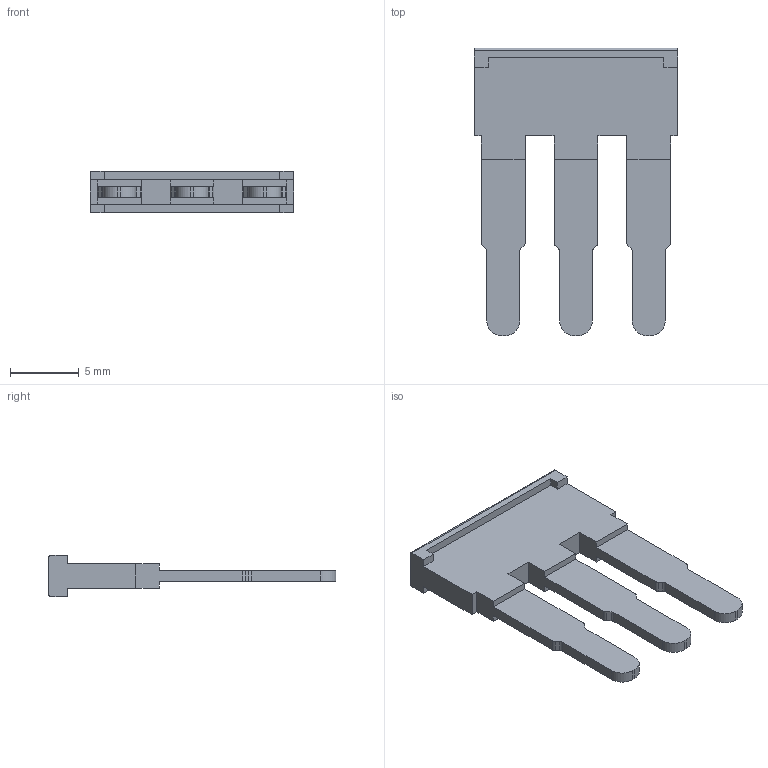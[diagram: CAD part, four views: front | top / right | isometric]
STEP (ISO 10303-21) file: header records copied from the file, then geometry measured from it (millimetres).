
FILE_DESCRIPTION(('Creo Elements/Direct Modeling STEP Export'),'2;1');
FILE_NAME('EFB0203R.stp','2019-07-26T14:06:23',(''),(''),'Creo Elements/Direct Modeling STEP processor for AP214 (Solid Model)','Creo Elements/Direct Modeling 20.1 10-Mar-2018 (C) Parametric Technology GmbH','');
FILE_SCHEMA(('AUTOMOTIVE_DESIGN { 1 0 10303 214 1 1 1 1 }'));
Length unit declared in the file: millimetre
Products named in the file (2): EFB0203R
Assembly tree (1 placements, depth 2):
  EFB0203R
    EFB0203R
Bounding box: 14.8 x 20.98 x 3 mm (x, y, z)
Volume: 298.9 mm3; surface area: 626.1 mm2
Topology: 1 solids, 1 shells, 74 faces, 216 edges, 144 vertices
Faces by surface type: plane 54, cylinder 20
Entity records: 2726 total; most frequent: ORIENTED_EDGE 432, CARTESIAN_POINT 427, DIRECTION 396, EDGE_CURVE 216, VECTOR 170, LINE 170, VERTEX_POINT 144, AXIS2_PLACEMENT_3D 113
